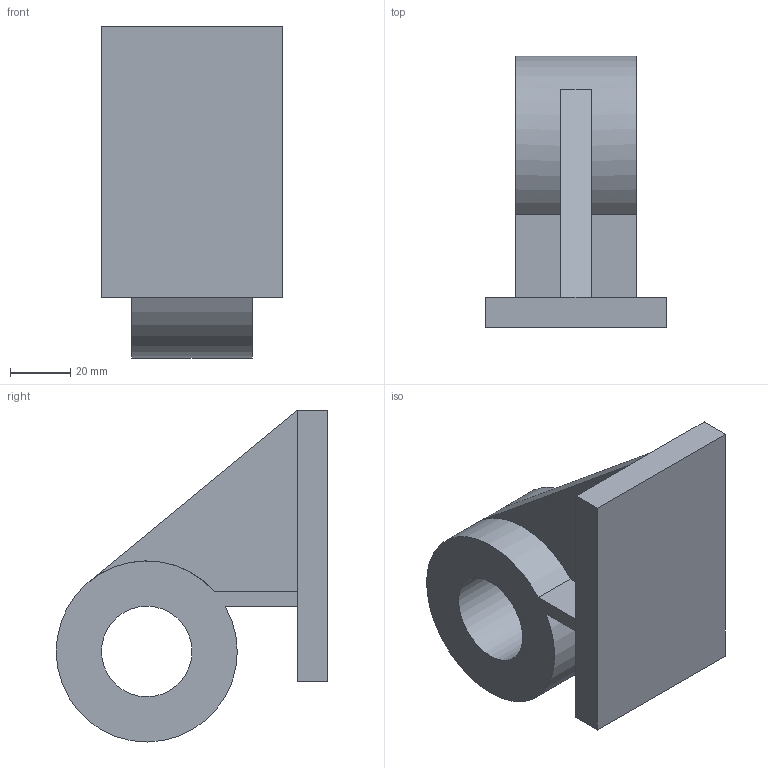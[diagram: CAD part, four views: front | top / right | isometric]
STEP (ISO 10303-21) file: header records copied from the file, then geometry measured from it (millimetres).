
FILE_DESCRIPTION(/* description */ (''),/* implementation_level */ '2;1');
FILE_NAME(/* name */ 'E:\OneDrive\School\Courses\Graphic Communication\Higher\Projects\Technical Graphics\Higher GC Technical Graphics\AS STEP\Section_2.stp',/* time_stamp */ '2020-12-07T16:34:19+00:00',/* author */ ('hunte'),/* organization */ (''),/* preprocessor_version */ 'ST-DEVELOPER v18.1',/* originating_system */ 'Autodesk Inventor 2020',/* authorisation */ '');
FILE_SCHEMA (('AUTOMOTIVE_DESIGN { 1 0 10303 214 3 1 1 }'));
Length unit declared in the file: millimetre
Products named in the file (1): Section_2
Bounding box: 60 x 89.99 x 110 mm (x, y, z)
Volume: 162731.7 mm3; surface area: 34539.8 mm2
Topology: 1 solids, 1 shells, 16 faces, 40 edges, 26 vertices
Faces by surface type: plane 14, cylinder 2
Full cylindrical faces by diameter (mm): 30 x1
Entity records: 519 total; most frequent: CARTESIAN_POINT 83, ORIENTED_EDGE 80, DIRECTION 80, EDGE_CURVE 40, LINE 34, VECTOR 34, VERTEX_POINT 26, AXIS2_PLACEMENT_3D 23
